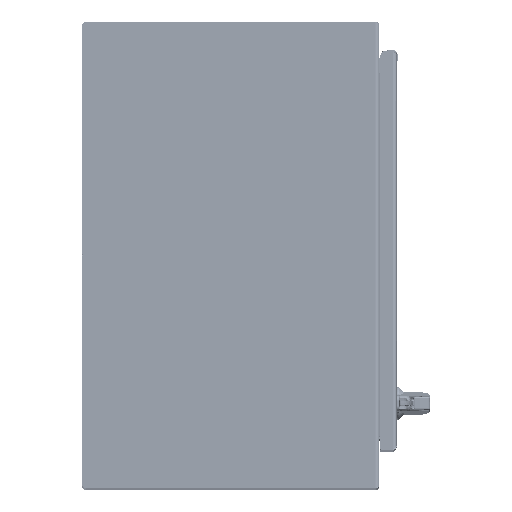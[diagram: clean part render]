
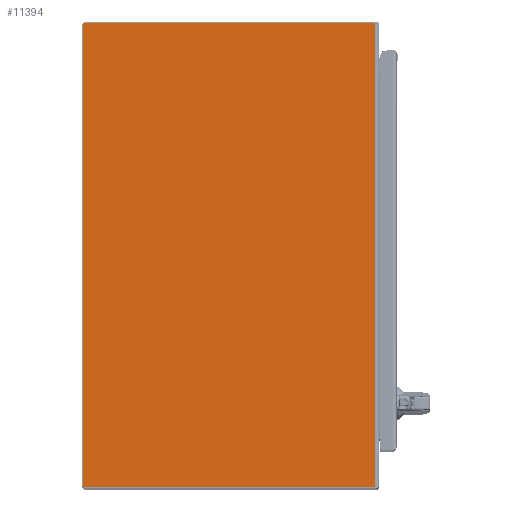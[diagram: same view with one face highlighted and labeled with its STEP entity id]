
A CAD part, top view. The second image highlights one B-rep face of the part: STEP entity #11394.
In plain terms, the highlighted planar face has unit normal (0, 0, 1) as drawn and (0, 1, 0) by its records, which use the part's own axes.
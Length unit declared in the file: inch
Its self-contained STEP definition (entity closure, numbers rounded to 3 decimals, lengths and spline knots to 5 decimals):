
#10605=CARTESIAN_POINT('',(-17.888,0.,-14.013));
#10606=DIRECTION('',(0.,1.,0.));
#10607=DIRECTION('',(0.,0.,-1.));
#10608=AXIS2_PLACEMENT_3D('',#10605,#10606,#10607);
#10613=CARTESIAN_POINT('',(-17.888,0.,14.013));
#10614=DIRECTION('',(0.,1.,0.));
#10615=DIRECTION('',(-1.,0.,0.));
#10616=AXIS2_PLACEMENT_3D('',#10613,#10614,#10615);
#10628=DIRECTION('',(0.,0.,-1.));
#10629=VECTOR('',#10628,28.026);
#10630=CARTESIAN_POINT('',(-17.948,0.,14.013));
#10631=LINE('',#10630,#10629);
#10656=DIRECTION('',(-1.,0.,0.));
#10657=VECTOR('',#10656,17.6415);
#10658=CARTESIAN_POINT('',(-0.2465,0.,14.073));
#10659=LINE('',#10658,#10657);
#10699=DIRECTION('',(0.,0.,1.));
#10700=VECTOR('',#10699,28.146);
#10701=CARTESIAN_POINT('',(-0.2465,0.,-14.073));
#10702=LINE('',#10701,#10700);
#10807=DIRECTION('',(-1.,0.,0.));
#10808=VECTOR('',#10807,17.6415);
#10809=CARTESIAN_POINT('',(-0.2465,0.,-14.073));
#10810=LINE('',#10809,#10808);
#11279=CARTESIAN_POINT('',(-0.2465,0.,14.073));
#11280=VERTEX_POINT('',#11279);
#11281=CARTESIAN_POINT('',(-0.2465,0.,-14.073));
#11282=VERTEX_POINT('',#11281);
#11307=CARTESIAN_POINT('',(-17.888,0.,-14.073));
#11308=CARTESIAN_POINT('',(-17.948,0.,-14.013));
#11309=VERTEX_POINT('',#11307);
#11310=VERTEX_POINT('',#11308);
#11315=CARTESIAN_POINT('',(-17.948,0.,14.013));
#11316=CARTESIAN_POINT('',(-17.888,0.,14.073));
#11317=VERTEX_POINT('',#11315);
#11318=VERTEX_POINT('',#11316);
#11375=CARTESIAN_POINT('',(0.,0.,14.073));
#11376=DIRECTION('',(0.,1.,0.));
#11377=DIRECTION('',(-1.,0.,0.));
#11378=AXIS2_PLACEMENT_3D('',#11375,#11376,#11377);
#11379=PLANE('',#11378);
#11381=ORIENTED_EDGE('',*,*,#11380,.F.);
#11383=ORIENTED_EDGE('',*,*,#11382,.F.);
#11385=ORIENTED_EDGE('',*,*,#11384,.T.);
#11387=ORIENTED_EDGE('',*,*,#11386,.T.);
#11389=ORIENTED_EDGE('',*,*,#11388,.F.);
#11391=ORIENTED_EDGE('',*,*,#11390,.T.);
#11392=EDGE_LOOP('',(#11381,#11383,#11385,#11387,#11389,#11391));
#11393=FACE_OUTER_BOUND('',#11392,.F.);
#10609=CIRCLE('',#10608,0.06);
#10617=CIRCLE('',#10616,0.06);
#11380=EDGE_CURVE('',#11309,#11310,#10609,.T.);
#11382=EDGE_CURVE('',#11282,#11309,#10810,.T.);
#11384=EDGE_CURVE('',#11282,#11280,#10702,.T.);
#11386=EDGE_CURVE('',#11280,#11318,#10659,.T.);
#11388=EDGE_CURVE('',#11317,#11318,#10617,.T.);
#11390=EDGE_CURVE('',#11317,#11310,#10631,.T.);
#11394=ADVANCED_FACE('',(#11393),#11379,.T.);
